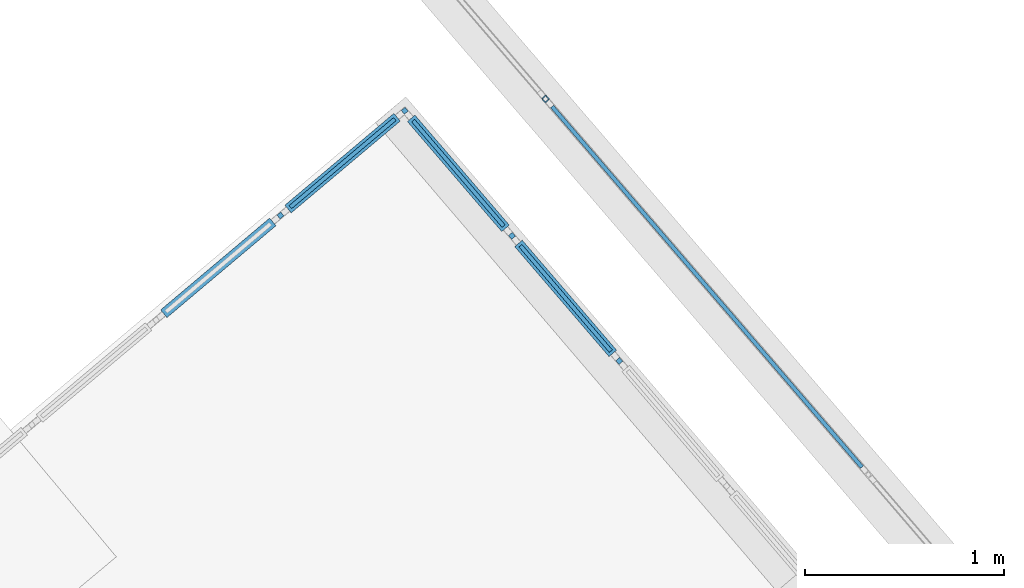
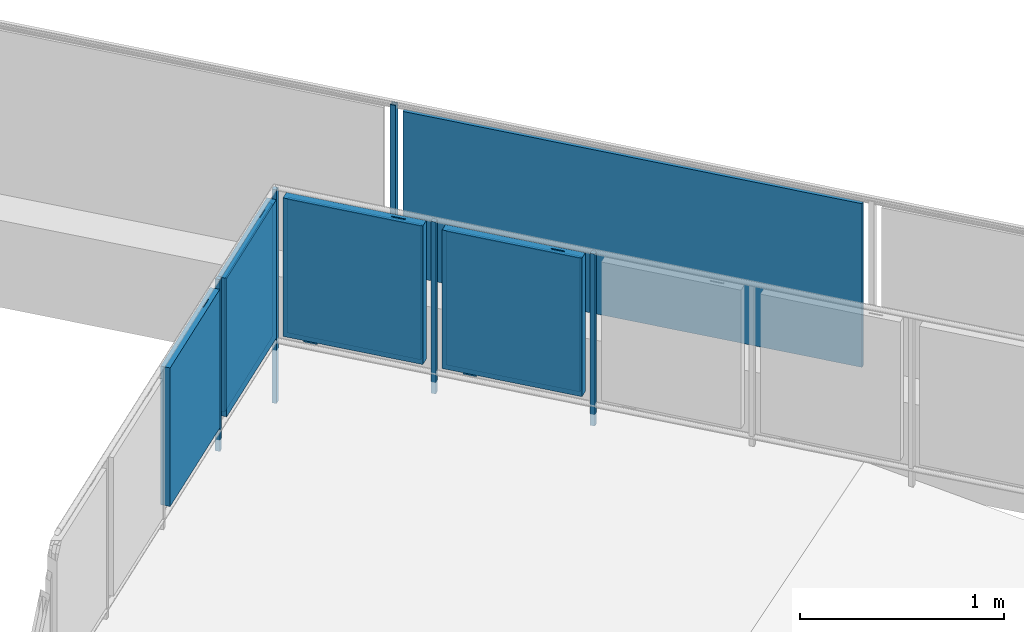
# One storey, part 44 of 67: 13 building element parts, 2 elements without a shape of their own.
"""IFC4 building model written with IfcOpenShell, lengths in metres."""

from ifc_helpers import new_model, entity, si_unit, converted_unit, derived_unit, direction, frame, origin_with_axes, place, context, subcontext, project, spatial, polygons, material, type_object, element, aggregate, save


model = new_model("IFC4")

# Units and contexts
model_context = context("Model", 3, precision=1e-05, world=origin_with_axes(), true_north=direction((0.0, 1.0)))
body_context = subcontext(model_context, "Body", "Model", "MODEL_VIEW")
ifc_project = project(units=[si_unit("LENGTHUNIT", "METRE"), si_unit("AREAUNIT", "SQUARE_METRE"), si_unit("VOLUMEUNIT", "CUBIC_METRE"), converted_unit("PLANEANGLEUNIT", "DEGREE", entity("IfcPlaneAngleMeasure", 0.0174532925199), si_unit("PLANEANGLEUNIT", "RADIAN"), dimensions=[0, 0, 0, 0, 0, 0, 0]), converted_unit("TIMEUNIT", "Year", entity("IfcTimeMeasure", 31556926.0), si_unit("TIMEUNIT", "SECOND"), dimensions=[0, 0, 1, 0, 0, 0, 0]), si_unit("MASSUNIT", "GRAM", prefix="KILO"), si_unit("THERMODYNAMICTEMPERATUREUNIT", "DEGREE_CELSIUS"), si_unit("LUMINOUSINTENSITYUNIT", "LUMEN"), si_unit("ENERGYUNIT", "JOULE", prefix="MEGA"), derived_unit("THERMALCONDUCTANCEUNIT", [(si_unit("POWERUNIT", "WATT"), 1), (si_unit("LENGTHUNIT", "METRE"), -1), (si_unit("THERMODYNAMICTEMPERATUREUNIT", "KELVIN"), -1)]), derived_unit("SPECIFICHEATCAPACITYUNIT", [(si_unit("ENERGYUNIT", "JOULE"), 1), (si_unit("MASSUNIT", "GRAM", prefix="KILO"), -1), (si_unit("THERMODYNAMICTEMPERATUREUNIT", "KELVIN"), -1)]), derived_unit("MASSDENSITYUNIT", [(si_unit("MASSUNIT", "GRAM", prefix="KILO"), 1), (si_unit("VOLUMEUNIT", "CUBIC_METRE"), -1)])], contexts=[model_context])

# Site, building, storey
site_placement = place(None, frame((-0.00153261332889, -0.00661245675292, 0.0), z_axis=(0.0, 0.0, 1.0), x_axis=(1.0, 0.0, 0.0)))
site = spatial("IfcSite", under=ifc_project, at=site_placement, Name="Site", CompositionType="ELEMENT")
building_placement = place(site_placement, origin_with_axes())
building = spatial("IfcBuilding", under=site, at=building_placement, Name="Building", CompositionType="ELEMENT")
storey_placement = place(building_placement, frame((0.0, 0.0, -0.22), z_axis=(0.0, 0.0, 1.0), x_axis=(1.0, 0.0, 0.0)))
storey = spatial("IfcBuildingStorey", under=building, at=storey_placement, Name="EG", CompositionType="ELEMENT", Elevation=-0.22)

# Railing, building element parts
railing_type = type_object("IfcRailingType", Name="Geländerart", PredefinedType="NOTDEFINED")
railing_1_placement = place(storey_placement, frame((-12.1608341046, 23.557810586, 0.523948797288), z_axis=(0.0, 0.0, 1.0), x_axis=(1.0, 0.0, 0.0)))
railing_1 = element("IfcRailing", 1, at=railing_1_placement, inside=storey, type_object=railing_type, Name="Geländer - 001", PredefinedType="NOTDEFINED")
ifc_material_1 = material(Name="Zaun")
building_element_part_1_placement = place(railing_1_placement, origin_with_axes())
building_element_part_1 = element("IfcBuildingElementPart", 2, at=building_element_part_1_placement, material=ifc_material_1, Name="Zaun", PredefinedType="NOTDEFINED", context=body_context, shape_type="Tessellation", body=[
    polygons([(28.8287123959, 0.166321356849, 0.05), (30.3845346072, -1.64438119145, 0.05), (30.3845346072, -1.64438119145, 1.03), (28.8287123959, 0.166321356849, 1.03), (30.3997040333, -1.63134706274, 0.05), (28.843881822, 0.179355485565, 0.05), (30.3997040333, -1.63134706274, 1.03), (28.843881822, 0.179355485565, 1.03)], [[[1, 2, 3, 4]], [[5, 2, 1, 6]], [[7, 3, 2, 5]], [[4, 3, 7, 8]], [[1, 4, 8, 6]], [[7, 5, 6, 8]]], closed=True),
])
ifc_material_2 = material(Name="Aluminium")
building_element_part_2_placement = place(railing_1_placement, origin_with_axes())
building_element_part_2 = element("IfcBuildingElementPart", 3, at=building_element_part_2_placement, material=ifc_material_2, Name="Aluminium", PredefinedType="NOTDEFINED", context=body_context, shape_type="Tessellation", body=[
    polygons([(28.8053132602, 0.231914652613, 0.0), (28.782559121, 0.212363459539, 0.0), (28.782559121, 0.212363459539, 1.06), (28.8053132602, 0.231914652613, 1.06), (28.8248644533, 0.209160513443, 0.0), (28.8021103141, 0.189609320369, 0.0), (28.8047794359, 0.224863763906, 0.0), (28.7896100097, 0.21182963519, 0.0), (28.8026441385, 0.196660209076, 0.0), (28.8178135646, 0.209694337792, 0.0), (28.8021103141, 0.189609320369, 1.06), (28.8248644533, 0.209160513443, 1.06), (28.8047794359, 0.224863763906, 1.06), (28.8178135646, 0.209694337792, 1.06), (28.8026441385, 0.196660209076, 1.06), (28.7896100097, 0.21182963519, 1.06)], [[[1, 2, 3, 4]], [[1, 5, 6, 2], [7, 8, 9, 10]], [[2, 6, 11, 3]], [[4, 3, 11, 12], [13, 14, 15, 16]], [[5, 1, 4, 12]], [[6, 5, 12, 11]], [[8, 7, 13, 16]], [[9, 8, 16, 15]], [[10, 9, 15, 14]], [[7, 10, 14, 13]]], closed=True),
])
aggregate(railing_1, [building_element_part_1, building_element_part_2])

railing_2_placement = place(storey_placement, frame((12.7838928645, 21.1193756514, 0.38), z_axis=(0.0, 0.0, 1.0), x_axis=(1.0, 0.0, 0.0)))
railing_2 = element("IfcRailing", 4, at=railing_2_placement, inside=storey, type_object=railing_type, Name="Geländer - 001", PredefinedType="NOTDEFINED")
building_element_part_3_placement = place(railing_2_placement, origin_with_axes())
building_element_part_3 = element("IfcBuildingElementPart", 5, at=building_element_part_3_placement, material=ifc_material_2, Name="Aluminium", PredefinedType="NOTDEFINED", context=body_context, shape_type="Tessellation", body=[
    polygons([(3.16945391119, 2.58828020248, -0.3), (3.15334703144, 2.60740004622, -0.3), (3.15334703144, 2.60740004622, 0.98), (3.16945391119, 2.58828020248, 0.98), (3.15033406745, 2.57217332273, -0.3), (3.1342271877, 2.59129316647, -0.3), (3.1342271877, 2.59129316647, 0.98), (3.15033406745, 2.57217332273, 0.98)], [[[1, 2, 3, 4]], [[1, 5, 6, 2]], [[2, 6, 7, 3]], [[4, 3, 7, 8]], [[5, 1, 4, 8]], [[6, 5, 8, 7]]], closed=True),
])
building_element_part_4_placement = place(railing_2_placement, origin_with_axes())
building_element_part_4 = element("IfcBuildingElementPart", 6, at=building_element_part_4_placement, material=ifc_material_2, Name="Aluminium", PredefinedType="NOTDEFINED", context=body_context, shape_type="Tessellation", body=[
    polygons([(2.01709820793, 1.63712939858, 0.12), (2.07063377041, 1.68222866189, 0.12), (2.07063377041, 1.68222866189, 0.095), (2.01709820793, 1.63712939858, 0.095), (2.02031958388, 1.63330542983, 0.12), (2.07385514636, 1.67840469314, 0.12), (2.07385514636, 1.67840469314, 0.095), (2.02031958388, 1.63330542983, 0.095)], [[[1, 2, 3, 4]], [[5, 6, 2, 1]], [[2, 6, 7, 3]], [[4, 3, 7, 8]], [[1, 4, 8, 5]], [[8, 7, 6, 5]]], closed=True),
    polygons([(2.41158544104, 1.96945211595, 0.95), (2.35804987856, 1.92435285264, 0.95), (2.35804987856, 1.92435285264, 0.955), (2.41158544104, 1.96945211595, 0.955), (2.41480681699, 1.9656281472, 0.95), (2.36127125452, 1.92052888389, 0.95), (2.36127125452, 1.92052888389, 0.955), (2.41480681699, 1.9656281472, 0.955)], [[[1, 2, 3, 4]], [[5, 6, 2, 1]], [[2, 6, 7, 3]], [[4, 3, 7, 8]], [[1, 4, 8, 5]], [[8, 7, 6, 5]]], closed=True),
    polygons([(1.9583364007, 1.55167005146, 0.12), (1.92612264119, 1.58990973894, 0.12), (2.47356862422, 2.05108749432, 0.12), (2.50578238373, 2.01284780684, 0.12), (1.97363227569, 1.56455555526, 0.14), (1.96396814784, 1.5760274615, 0.14), (1.96014417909, 1.57280608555, 0.135), (1.94725867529, 1.58810196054, 0.135), (1.95108264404, 1.59132333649, 0.14), (1.94141851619, 1.60279524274, 0.14), (2.45827274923, 2.03820199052, 0.14), (2.45827274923, 2.03820199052, 0.93), (1.94141851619, 1.60279524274, 0.93), (1.94141851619, 1.60279524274, 0.14), (1.92612264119, 1.58990973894, 0.12), (1.92612264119, 1.58990973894, 0.95), (2.47356862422, 2.05108749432, 0.95), (2.50578238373, 2.01284780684, 0.95), (1.9583364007, 1.55167005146, 0.95), (1.9583364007, 1.55167005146, 0.12), (1.97363227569, 1.56455555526, 0.14), (1.97363227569, 1.56455555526, 0.93), (2.49048650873, 1.99996230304, 0.93), (2.49048650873, 1.99996230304, 0.14), (2.48082238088, 2.01143420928, 0.14), (2.48082238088, 2.01143420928, 0.93), (1.96396814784, 1.5760274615, 0.93), (1.96396814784, 1.5760274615, 0.14), (1.96014417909, 1.57280608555, 0.135), (1.96014417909, 1.57280608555, 0.935), (2.48464634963, 2.01465558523, 0.935), (2.48464634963, 2.01465558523, 0.135), (2.47176084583, 2.02995146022, 0.135), (2.47176084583, 2.02995146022, 0.935), (1.94725867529, 1.58810196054, 0.935), (1.94725867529, 1.58810196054, 0.135), (1.95108264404, 1.59132333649, 0.14), (1.95108264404, 1.59132333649, 0.93), (2.46793687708, 2.02673008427, 0.93), (2.46793687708, 2.02673008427, 0.14)], [[[1, 2, 3, 4]], [[1, 5, 6, 7, 8, 9, 10, 2]], [[2, 10, 11, 12, 13, 14, 15, 16, 17, 3]], [[4, 3, 17, 18]], [[5, 1, 4, 18, 19, 20, 21, 22, 23, 24]], [[6, 5, 24, 25]], [[7, 6, 25, 26, 27, 28, 29, 30, 31, 32]], [[8, 7, 32, 33]], [[9, 8, 33, 34, 35, 36, 37, 38, 39, 40]], [[10, 9, 40, 11]], [[11, 40, 39, 12]], [[12, 39, 38, 13]], [[13, 38, 37, 14]], [[20, 15, 14, 37, 36, 29, 28, 21]], [[19, 16, 15, 20]], [[18, 17, 16, 19]], [[27, 22, 21, 28]], [[26, 23, 22, 27]], [[25, 24, 23, 26]], [[35, 30, 29, 36]], [[34, 31, 30, 35]], [[33, 32, 31, 34]]], closed=True),
])
building_element_part_5_placement = place(railing_2_placement, origin_with_axes())
building_element_part_5 = element("IfcBuildingElementPart", 7, at=building_element_part_5_placement, material=ifc_material_2, Name="Aluminium", PredefinedType="NOTDEFINED", context=body_context, shape_type="Tessellation", body=[
    polygons([(2.5455285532, 2.06267492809, -0.05), (2.52942167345, 2.08179477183, -0.05), (2.52942167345, 2.08179477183, 0.98), (2.5455285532, 2.06267492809, 0.98), (2.52640870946, 2.04656804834, -0.05), (2.51030182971, 2.06568789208, -0.05), (2.51030182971, 2.06568789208, 0.98), (2.52640870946, 2.04656804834, 0.98)], [[[1, 2, 3, 4]], [[1, 5, 6, 2]], [[2, 6, 7, 3]], [[4, 3, 7, 8]], [[5, 1, 4, 8]], [[6, 5, 8, 7]]], closed=True),
])
ifc_material_3 = material(Name="Profilit")
building_element_part_6_placement = place(railing_2_placement, origin_with_axes())
building_element_part_6 = element("IfcBuildingElementPart", 8, at=building_element_part_6_placement, material=ifc_material_3, Name="Profilit", PredefinedType="NOTDEFINED", context=body_context, shape_type="Tessellation", body=[
    polygons([(3.09568620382, 2.55555673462, 0.135), (2.57118403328, 2.11370723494, 0.135), (2.57118403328, 2.11370723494, 0.935), (3.09568620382, 2.55555673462, 0.935), (2.58406953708, 2.09841135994, 0.135), (3.10857170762, 2.54026085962, 0.135), (2.58406953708, 2.09841135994, 0.935), (3.10857170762, 2.54026085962, 0.935)], [[[1, 2, 3, 4]], [[5, 2, 1, 6]], [[7, 3, 2, 5]], [[4, 3, 7, 8]], [[1, 4, 8, 6]], [[7, 5, 6, 8]]], closed=True),
])
building_element_part_7_placement = place(railing_2_placement, origin_with_axes())
building_element_part_7 = element("IfcBuildingElementPart", 9, at=building_element_part_7_placement, material=ifc_material_2, Name="Aluminium", PredefinedType="NOTDEFINED", context=body_context, shape_type="Tessellation", body=[
    polygons([(2.64102356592, 2.16273467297, 0.12), (2.69455912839, 2.20783393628, 0.12), (2.69455912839, 2.20783393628, 0.095), (2.64102356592, 2.16273467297, 0.095), (2.64424494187, 2.15891070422, 0.12), (2.69778050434, 2.20400996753, 0.12), (2.69778050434, 2.20400996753, 0.095), (2.64424494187, 2.15891070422, 0.095)], [[[1, 2, 3, 4]], [[5, 6, 2, 1]], [[2, 6, 7, 3]], [[4, 3, 7, 8]], [[1, 4, 8, 5]], [[8, 7, 6, 5]]], closed=True),
    polygons([(3.03551079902, 2.49505739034, 0.95), (2.98197523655, 2.44995812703, 0.95), (2.98197523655, 2.44995812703, 0.955), (3.03551079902, 2.49505739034, 0.955), (3.03873217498, 2.49123342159, 0.95), (2.9851966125, 2.44613415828, 0.95), (2.9851966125, 2.44613415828, 0.955), (3.03873217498, 2.49123342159, 0.955)], [[[1, 2, 3, 4]], [[5, 6, 2, 1]], [[2, 6, 7, 3]], [[4, 3, 7, 8]], [[1, 4, 8, 5]], [[8, 7, 6, 5]]], closed=True),
    polygons([(2.58226175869, 2.07727532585, 0.12), (2.55004799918, 2.11551501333, 0.12), (3.09749398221, 2.57669276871, 0.12), (3.12970774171, 2.53845308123, 0.12), (2.59755763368, 2.09016082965, 0.14), (2.58789350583, 2.10163273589, 0.14), (2.58406953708, 2.09841135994, 0.135), (2.57118403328, 2.11370723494, 0.135), (2.57500800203, 2.11692861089, 0.14), (2.56534387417, 2.12840051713, 0.14), (3.08219810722, 2.56380726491, 0.14), (3.08219810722, 2.56380726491, 0.93), (2.56534387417, 2.12840051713, 0.93), (2.56534387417, 2.12840051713, 0.14), (2.55004799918, 2.11551501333, 0.12), (2.55004799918, 2.11551501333, 0.95), (3.09749398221, 2.57669276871, 0.95), (3.12970774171, 2.53845308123, 0.95), (2.58226175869, 2.07727532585, 0.95), (2.58226175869, 2.07727532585, 0.12), (2.59755763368, 2.09016082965, 0.14), (2.59755763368, 2.09016082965, 0.93), (3.11441186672, 2.52556757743, 0.93), (3.11441186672, 2.52556757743, 0.14), (3.10474773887, 2.53703948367, 0.14), (3.10474773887, 2.53703948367, 0.93), (2.58789350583, 2.10163273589, 0.93), (2.58789350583, 2.10163273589, 0.14), (2.58406953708, 2.09841135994, 0.135), (2.58406953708, 2.09841135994, 0.935), (3.10857170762, 2.54026085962, 0.935), (3.10857170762, 2.54026085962, 0.135), (3.09568620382, 2.55555673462, 0.135), (3.09568620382, 2.55555673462, 0.935), (2.57118403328, 2.11370723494, 0.935), (2.57118403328, 2.11370723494, 0.135), (2.57500800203, 2.11692861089, 0.14), (2.57500800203, 2.11692861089, 0.93), (3.09186223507, 2.55233535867, 0.93), (3.09186223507, 2.55233535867, 0.14)], [[[1, 2, 3, 4]], [[1, 5, 6, 7, 8, 9, 10, 2]], [[2, 10, 11, 12, 13, 14, 15, 16, 17, 3]], [[4, 3, 17, 18]], [[5, 1, 4, 18, 19, 20, 21, 22, 23, 24]], [[6, 5, 24, 25]], [[7, 6, 25, 26, 27, 28, 29, 30, 31, 32]], [[8, 7, 32, 33]], [[9, 8, 33, 34, 35, 36, 37, 38, 39, 40]], [[10, 9, 40, 11]], [[11, 40, 39, 12]], [[12, 39, 38, 13]], [[13, 38, 37, 14]], [[20, 15, 14, 37, 36, 29, 28, 21]], [[19, 16, 15, 20]], [[18, 17, 16, 19]], [[27, 22, 21, 28]], [[26, 23, 22, 27]], [[25, 24, 23, 26]], [[35, 30, 29, 36]], [[34, 31, 30, 35]], [[33, 32, 31, 34]]], closed=True),
])
building_element_part_8_placement = place(railing_2_placement, origin_with_axes())
building_element_part_8 = element("IfcBuildingElementPart", 10, at=building_element_part_8_placement, material=ifc_material_3, Name="Profilit", PredefinedType="NOTDEFINED", context=body_context, shape_type="Tessellation", body=[
    polygons([(3.65581428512, 2.01758807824, 0.135), (3.2017493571, 2.54696016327, 0.135), (3.2017493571, 2.54696016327, 0.935), (3.65581428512, 2.01758807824, 0.935), (3.18656872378, 2.53393908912, 0.135), (3.6406336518, 2.00456700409, 0.135), (3.18656872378, 2.53393908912, 0.935), (3.6406336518, 2.00456700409, 0.935)], [[[1, 2, 3, 4]], [[5, 2, 1, 6]], [[7, 3, 2, 5]], [[4, 3, 7, 8]], [[1, 4, 8, 6]], [[7, 5, 6, 8]]], closed=True),
])
building_element_part_9_placement = place(railing_2_placement, origin_with_axes())
building_element_part_9 = element("IfcBuildingElementPart", 11, at=building_element_part_9_placement, material=ifc_material_2, Name="Aluminium", PredefinedType="NOTDEFINED", context=body_context, shape_type="Tessellation", body=[
    polygons([(3.25139618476, 2.47755956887, 0.12), (3.2969699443, 2.42442735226, 0.12), (3.2969699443, 2.42442735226, 0.095), (3.25139618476, 2.47755956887, 0.095), (3.24760102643, 2.47430430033, 0.12), (3.29317478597, 2.42117208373, 0.12), (3.29317478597, 2.42117208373, 0.095), (3.24760102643, 2.47430430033, 0.095)], [[[1, 2, 3, 4]], [[5, 6, 2, 1]], [[2, 6, 7, 3]], [[4, 3, 7, 8]], [[1, 4, 8, 5]], [[8, 7, 6, 5]]], closed=True),
    polygons([(3.59478198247, 2.07722286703, 0.95), (3.54920822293, 2.13035508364, 0.95), (3.54920822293, 2.13035508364, 0.955), (3.59478198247, 2.07722286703, 0.955), (3.59098682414, 2.07396759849, 0.95), (3.5454130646, 2.1270998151, 0.95), (3.5454130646, 2.1270998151, 0.955), (3.59098682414, 2.07396759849, 0.955)], [[[1, 2, 3, 4]], [[5, 6, 2, 1]], [[2, 6, 7, 3]], [[4, 3, 7, 8]], [[1, 4, 8, 5]], [[8, 7, 6, 5]]], closed=True),
    polygons([(3.16541744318, 2.53555875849, 0.12), (3.20336902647, 2.56811144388, 0.12), (3.67696556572, 2.01596840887, 0.12), (3.63901398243, 1.98341572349, 0.12), (3.17843851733, 2.52037812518, 0.14), (3.18982399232, 2.53014393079, 0.14), (3.18656872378, 2.53393908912, 0.135), (3.2017493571, 2.54696016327, 0.135), (3.20500462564, 2.54316500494, 0.14), (3.21639010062, 2.55293081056, 0.14), (3.66394449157, 2.03114904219, 0.14), (3.66394449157, 2.03114904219, 0.93), (3.21639010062, 2.55293081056, 0.93), (3.21639010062, 2.55293081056, 0.14), (3.20336902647, 2.56811144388, 0.12), (3.20336902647, 2.56811144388, 0.95), (3.67696556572, 2.01596840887, 0.95), (3.63901398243, 1.98341572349, 0.95), (3.16541744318, 2.53555875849, 0.95), (3.16541744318, 2.53555875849, 0.12), (3.17843851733, 2.52037812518, 0.14), (3.17843851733, 2.52037812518, 0.93), (3.62599290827, 1.9985963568, 0.93), (3.62599290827, 1.9985963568, 0.14), (3.63737838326, 2.00836216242, 0.14), (3.63737838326, 2.00836216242, 0.93), (3.18982399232, 2.53014393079, 0.93), (3.18982399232, 2.53014393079, 0.14), (3.18656872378, 2.53393908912, 0.135), (3.18656872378, 2.53393908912, 0.935), (3.6406336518, 2.00456700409, 0.935), (3.6406336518, 2.00456700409, 0.135), (3.65581428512, 2.01758807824, 0.135), (3.65581428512, 2.01758807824, 0.935), (3.2017493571, 2.54696016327, 0.935), (3.2017493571, 2.54696016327, 0.135), (3.20500462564, 2.54316500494, 0.14), (3.20500462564, 2.54316500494, 0.93), (3.65255901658, 2.02138323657, 0.93), (3.65255901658, 2.02138323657, 0.14)], [[[1, 2, 3, 4]], [[1, 5, 6, 7, 8, 9, 10, 2]], [[2, 10, 11, 12, 13, 14, 15, 16, 17, 3]], [[4, 3, 17, 18]], [[5, 1, 4, 18, 19, 20, 21, 22, 23, 24]], [[6, 5, 24, 25]], [[7, 6, 25, 26, 27, 28, 29, 30, 31, 32]], [[8, 7, 32, 33]], [[9, 8, 33, 34, 35, 36, 37, 38, 39, 40]], [[10, 9, 40, 11]], [[11, 40, 39, 12]], [[12, 39, 38, 13]], [[13, 38, 37, 14]], [[20, 15, 14, 37, 36, 29, 28, 21]], [[19, 16, 15, 20]], [[18, 17, 16, 19]], [[27, 22, 21, 28]], [[26, 23, 22, 27]], [[25, 24, 23, 26]], [[35, 30, 29, 36]], [[34, 31, 30, 35]], [[33, 32, 31, 34]]], closed=True),
])
building_element_part_10_placement = place(railing_2_placement, origin_with_axes())
building_element_part_10 = element("IfcBuildingElementPart", 12, at=building_element_part_10_placement, material=ifc_material_2, Name="Aluminium", PredefinedType="NOTDEFINED", context=body_context, shape_type="Tessellation", body=[
    polygons([(3.68919273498, 1.94411441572, -0.05), (3.70816852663, 1.96039075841, -0.05), (3.70816852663, 1.96039075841, 0.98), (3.68919273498, 1.94411441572, 0.98), (3.67291639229, 1.96309020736, -0.05), (3.69189218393, 1.97936655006, -0.05), (3.69189218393, 1.97936655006, 0.98), (3.67291639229, 1.96309020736, 0.98)], [[[1, 2, 3, 4]], [[1, 5, 6, 2]], [[2, 6, 7, 3]], [[4, 3, 7, 8]], [[5, 1, 4, 8]], [[6, 5, 8, 7]]], closed=True),
])
building_element_part_11_placement = place(railing_2_placement, origin_with_axes())
building_element_part_11 = element("IfcBuildingElementPart", 13, at=building_element_part_11_placement, material=ifc_material_3, Name="Profilit", PredefinedType="NOTDEFINED", context=body_context, shape_type="Tessellation", body=[
    polygons([(4.19451619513, 1.38954187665, 0.135), (3.74045126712, 1.91891396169, 0.135), (3.74045126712, 1.91891396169, 0.935), (4.19451619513, 1.38954187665, 0.935), (3.7252706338, 1.90589288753, 0.135), (4.17933556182, 1.3765208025, 0.135), (3.7252706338, 1.90589288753, 0.935), (4.17933556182, 1.3765208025, 0.935)], [[[1, 2, 3, 4]], [[5, 2, 1, 6]], [[7, 3, 2, 5]], [[4, 3, 7, 8]], [[1, 4, 8, 6]], [[7, 5, 6, 8]]], closed=True),
])
building_element_part_12_placement = place(railing_2_placement, origin_with_axes())
building_element_part_12 = element("IfcBuildingElementPart", 14, at=building_element_part_12_placement, material=ifc_material_2, Name="Aluminium", PredefinedType="NOTDEFINED", context=body_context, shape_type="Tessellation", body=[
    polygons([(3.79009809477, 1.84951336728, 0.12), (3.83567185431, 1.79638115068, 0.12), (3.83567185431, 1.79638115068, 0.095), (3.79009809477, 1.84951336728, 0.095), (3.78630293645, 1.84625809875, 0.12), (3.83187669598, 1.79312588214, 0.12), (3.83187669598, 1.79312588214, 0.095), (3.78630293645, 1.84625809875, 0.095)], [[[1, 2, 3, 4]], [[5, 6, 2, 1]], [[2, 6, 7, 3]], [[4, 3, 7, 8]], [[1, 4, 8, 5]], [[8, 7, 6, 5]]], closed=True),
    polygons([(4.13348389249, 1.44917666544, 0.95), (4.08791013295, 1.50230888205, 0.95), (4.08791013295, 1.50230888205, 0.955), (4.13348389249, 1.44917666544, 0.955), (4.12968873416, 1.4459213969, 0.95), (4.08411497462, 1.49905361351, 0.95), (4.08411497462, 1.49905361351, 0.955), (4.12968873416, 1.4459213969, 0.955)], [[[1, 2, 3, 4]], [[5, 6, 2, 1]], [[2, 6, 7, 3]], [[4, 3, 7, 8]], [[1, 4, 8, 5]], [[8, 7, 6, 5]]], closed=True),
    polygons([(3.7041193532, 1.9075125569, 0.12), (3.74207093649, 1.94006524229, 0.12), (4.21566747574, 1.38792220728, 0.12), (4.17771589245, 1.3553695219, 0.12), (3.71714042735, 1.89233192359, 0.14), (3.72852590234, 1.9020977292, 0.14), (3.7252706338, 1.90589288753, 0.135), (3.74045126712, 1.91891396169, 0.135), (3.74370653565, 1.91511880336, 0.14), (3.75509201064, 1.92488460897, 0.14), (4.20264640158, 1.4031028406, 0.14), (4.20264640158, 1.4031028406, 0.93), (3.75509201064, 1.92488460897, 0.93), (3.75509201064, 1.92488460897, 0.14), (3.74207093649, 1.94006524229, 0.12), (3.74207093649, 1.94006524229, 0.95), (4.21566747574, 1.38792220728, 0.95), (4.17771589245, 1.3553695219, 0.95), (3.7041193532, 1.9075125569, 0.95), (3.7041193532, 1.9075125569, 0.12), (3.71714042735, 1.89233192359, 0.14), (3.71714042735, 1.89233192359, 0.93), (4.16469481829, 1.37055015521, 0.93), (4.16469481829, 1.37055015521, 0.14), (4.17608029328, 1.38031596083, 0.14), (4.17608029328, 1.38031596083, 0.93), (3.72852590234, 1.9020977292, 0.93), (3.72852590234, 1.9020977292, 0.14), (3.7252706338, 1.90589288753, 0.135), (3.7252706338, 1.90589288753, 0.935), (4.17933556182, 1.3765208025, 0.935), (4.17933556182, 1.3765208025, 0.135), (4.19451619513, 1.38954187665, 0.135), (4.19451619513, 1.38954187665, 0.935), (3.74045126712, 1.91891396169, 0.935), (3.74045126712, 1.91891396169, 0.135), (3.74370653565, 1.91511880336, 0.14), (3.74370653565, 1.91511880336, 0.93), (4.1912609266, 1.39333703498, 0.93), (4.1912609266, 1.39333703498, 0.14)], [[[1, 2, 3, 4]], [[1, 5, 6, 7, 8, 9, 10, 2]], [[2, 10, 11, 12, 13, 14, 15, 16, 17, 3]], [[4, 3, 17, 18]], [[5, 1, 4, 18, 19, 20, 21, 22, 23, 24]], [[6, 5, 24, 25]], [[7, 6, 25, 26, 27, 28, 29, 30, 31, 32]], [[8, 7, 32, 33]], [[9, 8, 33, 34, 35, 36, 37, 38, 39, 40]], [[10, 9, 40, 11]], [[11, 40, 39, 12]], [[12, 39, 38, 13]], [[13, 38, 37, 14]], [[20, 15, 14, 37, 36, 29, 28, 21]], [[19, 16, 15, 20]], [[18, 17, 16, 19]], [[27, 22, 21, 28]], [[26, 23, 22, 27]], [[25, 24, 23, 26]], [[35, 30, 29, 36]], [[34, 31, 30, 35]], [[33, 32, 31, 34]]], closed=True),
])
building_element_part_13_placement = place(railing_2_placement, origin_with_axes())
building_element_part_13 = element("IfcBuildingElementPart", 15, at=building_element_part_13_placement, material=ifc_material_2, Name="Aluminium", PredefinedType="NOTDEFINED", context=body_context, shape_type="Tessellation", body=[
    polygons([(4.227894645, 1.31606821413, -0.05), (4.24687043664, 1.33234455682, -0.05), (4.24687043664, 1.33234455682, 0.98), (4.227894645, 1.31606821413, 0.98), (4.21161830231, 1.33504400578, -0.05), (4.23059409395, 1.35132034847, -0.05), (4.23059409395, 1.35132034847, 0.98), (4.21161830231, 1.33504400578, 0.98)], [[[1, 2, 3, 4]], [[1, 5, 6, 2]], [[2, 6, 7, 3]], [[4, 3, 7, 8]], [[5, 1, 4, 8]], [[6, 5, 8, 7]]], closed=True),
])
aggregate(railing_2, [building_element_part_3, building_element_part_4, building_element_part_5, building_element_part_6, building_element_part_7, building_element_part_8, building_element_part_9, building_element_part_10, building_element_part_11, building_element_part_12, building_element_part_13])

save(model, "model.ifc")
